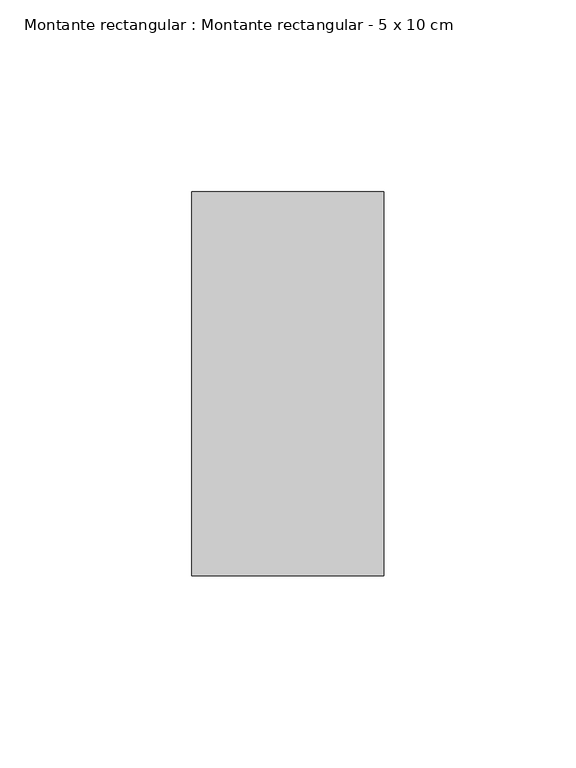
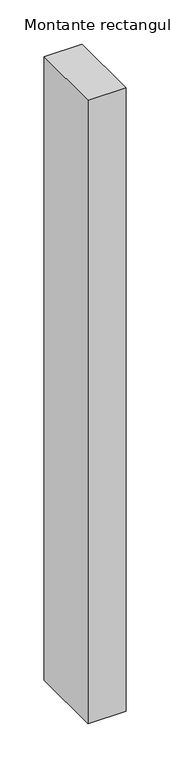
"""IFC4 building model written with IfcOpenShell, lengths in millimetres: member geometry, Montante rectangular : Montante rectangular - 5 x 10 cm."""

from ifc_helpers import new_model, si_unit, frame, origin, place, context, project, spatial, polyline, outline, extrude, source, transform, mapped, element, save


def montante_rectangular_montante_rectangular_5_x_10_cm_9879081c(model_context):
    return source(origin(), model_context, "Body", "SweptSolid", [
        extrude(outline(polyline([(-50.0, 50.0), (0.0, 50.0), (0.0, -50.0), (-50.0, -50.0), (-50.0, 50.0)])), frame((0.0, 0.0, -865.0), z_axis=(0.0, 0.0, 1.0), x_axis=(1.0, 0.0, 0.0)), (0.0, 0.0, 1.0), 865.0),
    ])


if __name__ == "__main__":
    model = new_model("IFC4")
    model_context = context("Model", 3, world=origin())
    ifc_project = project(units=[si_unit("LENGTHUNIT", "METRE", prefix="MILLI")], contexts=[model_context])
    site = spatial("IfcSite", under=ifc_project)
    building = spatial("IfcBuilding", under=site)
    placement = place(None, origin())
    montante_rectangular_montante_rectangular_5_x_10_cm_shape = montante_rectangular_montante_rectangular_5_x_10_cm_9879081c(model_context)
    element("IfcMember", 1, ObjectType="Montante rectangular : Montante rectangular - 5 x 10 cm", at=placement, inside=building, context=model_context, shape_type="MappedRepresentation", body=[
        mapped(montante_rectangular_montante_rectangular_5_x_10_cm_shape, transform((0.0, 0.0, 0.0), x_axis=(1.0, 0.0, 0.0), y_axis=(0.0, 1.0, 0.0), z_axis=(0.0, 0.0, 1.0))),
    ])
    save(model, "model.ifc")
